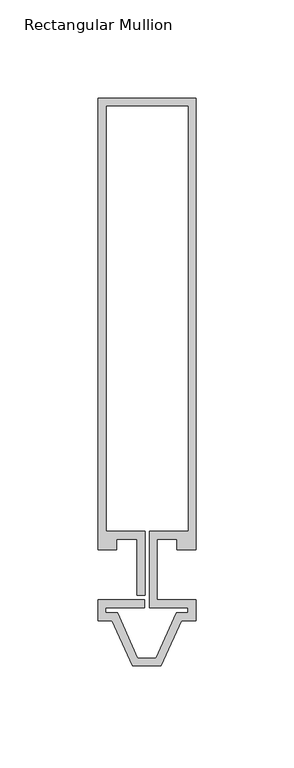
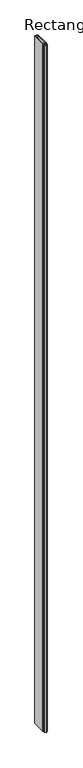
"""IFC4 building model written with IfcOpenShell, lengths in millimetres: member geometry, Rectangular Mullion : Reynaers_CW-50_Transom-Transom_Vertical_230.5mm_Facecap-04."""

from ifc_helpers import new_model, si_unit, frame, origin, place, context, project, spatial, polyline, outline, extrude, source, transform, mapped, element, save


def rectangular_mullion_6b586c06(model_context):
    return source(origin(), model_context, "Body", "SweptSolid", [
        extrude(outline(polyline([(25.1995941, 12.7331291), (15.499, 12.7331291), (15.499, 18.1331291), (5.2995941, 18.1331291), (5.2995941, -12.7331291), (24.994845, -12.7331291), (24.994845, -23.3331291), (17.6543638, -23.3331291), (7.3695812, -46.4331291), (-7.3695812, -46.4331291), (-17.6543638, -23.3331291), (-24.994845, -23.3331291), (-24.994845, -12.7331291), (-1.0995941, -12.7331291), (-1.0995941, -16.7331291), (-20.994845, -16.7331291), (-20.994845, -19.3331291), (-15.0567334, -19.3331291), (-4.7719508, -42.4331291), (4.7719508, -42.4331291), (15.0567334, -19.3331291), (20.994845, -19.3331291), (20.994845, -16.7331291), (1.2995941, -16.7331291), (1.2995941, 22.1331291), (21.1995941, 22.1331291), (21.1995941, 239.2331291), (-20.8004059, 239.2331291), (-20.8004059, 22.1331291), (-0.9004059, 22.1331291), (-0.9004059, -10.5), (-4.9004059, -10.5), (-4.9004059, 18.1331291), (-15.499, 18.1331291), (-15.499, 12.7331291), (-24.8004059, 12.7331291), (-24.8004059, 243.2331291), (25.1995941, 243.2331291), (25.1995941, 12.7331291)])), frame((0.0, 0.0, -12000.0), z_axis=(0.0, 0.0, 1.0), x_axis=(1.0, 0.0, 0.0)), (0.0, 0.0, 1.0), 12000.0),
    ])


if __name__ == "__main__":
    model = new_model("IFC4")
    model_context = context("Model", 3, world=origin())
    ifc_project = project(units=[si_unit("LENGTHUNIT", "METRE", prefix="MILLI")], contexts=[model_context])
    site = spatial("IfcSite", under=ifc_project)
    building = spatial("IfcBuilding", under=site)
    placement = place(None, origin())
    rectangular_mullion_shape = rectangular_mullion_6b586c06(model_context)
    element("IfcMember", 1, ObjectType="Rectangular Mullion : Reynaers_CW-50_Transom-Transom_Vertical_230.5mm_Facecap-04", at=placement, inside=building, context=model_context, shape_type="MappedRepresentation", body=[
        mapped(rectangular_mullion_shape, transform((0.0, 0.0, 0.0), x_axis=(1.0, 0.0, 0.0), y_axis=(0.0, 1.0, 0.0), z_axis=(0.0, 0.0, 1.0))),
    ])
    save(model, "model.ifc")
